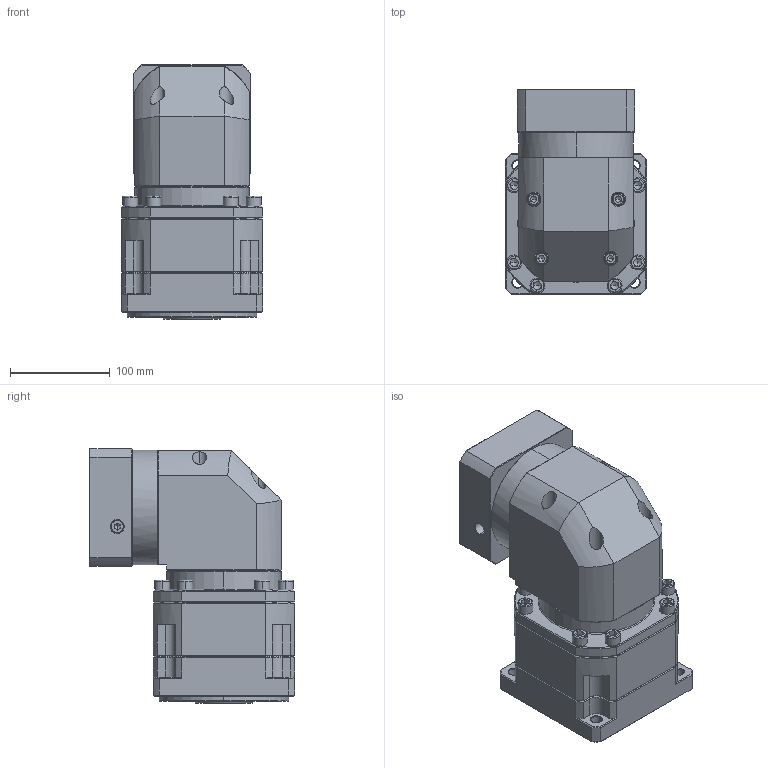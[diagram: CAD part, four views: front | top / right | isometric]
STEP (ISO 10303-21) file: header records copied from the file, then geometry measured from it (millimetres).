
FILE_DESCRIPTION (( 'STEP AP214' ), '1' );
FILE_NAME ('ZBR142A-K35-L2-P2-19-95-130-M8.step', '2023-09-02T08:12:37', ( '' ), ( '' ), 'SwSTEP 2.0', 'SolidWorks 2016', '' );
FILE_SCHEMA (( 'AUTOMOTIVE_DESIGN' ));
Length unit declared in the file: millimetre
Products named in the file (1): ZBR142A-K35-L2-P2-19-95-130-M8
Bounding box: 142 x 205.9 x 255.2 mm (x, y, z)
Volume: 4237755.9 mm3; surface area: 311178.9 mm2
Topology: 6 solids, 6 shells, 2529 faces, 6590 edges, 4186 vertices
Faces by surface type: plane 1225, cylinder 465, bspline 403, cone 392, torus 44
Entity records: 130445 total; most frequent: CARTESIAN_POINT 43793, ORIENTED_EDGE 13076, DIRECTION 10740, EDGE_CURVE 6538, LINE 4214, VECTOR 4214, VERTEX_POINT 4186, AXIS2_PLACEMENT_3D 3263
